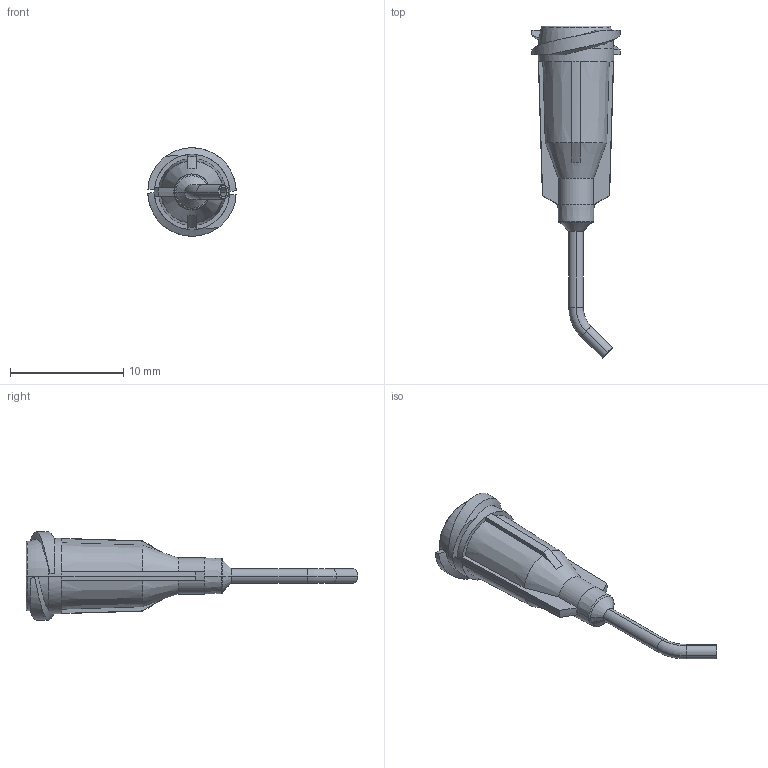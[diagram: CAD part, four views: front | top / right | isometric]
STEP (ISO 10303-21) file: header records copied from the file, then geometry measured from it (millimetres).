
FILE_DESCRIPTION (( 'STEP AP214' ), '1' );
FILE_NAME ('NORDSONEFD-7018118 TIP 18GA GP 033 45D GN.STEP', '2019-03-12T02:22:05', ( '' ), ( '' ), 'SwSTEP 2.0', 'SolidWorks 2019', '' );
FILE_SCHEMA (( 'AUTOMOTIVE_DESIGN' ));
Length unit declared in the file: inch
Products named in the file (1): NORDSONEFD-7018118 TIP 18GA GP 033 45D GN
Bounding box: 7.82 x 29.36 x 7.82 mm (x, y, z)
Volume: 268.9 mm3; surface area: 621.3 mm2
Topology: 1 solids, 1 shells, 114 faces, 264 edges, 154 vertices
Faces by surface type: torus 32, plane 24, cylinder 24, cone 22, bspline 12
Entity records: 4098 total; most frequent: CARTESIAN_POINT 1067, DIRECTION 556, ORIENTED_EDGE 528, EDGE_CURVE 264, AXIS2_PLACEMENT_3D 245, VERTEX_POINT 154, CIRCLE 142, EDGE_LOOP 118
